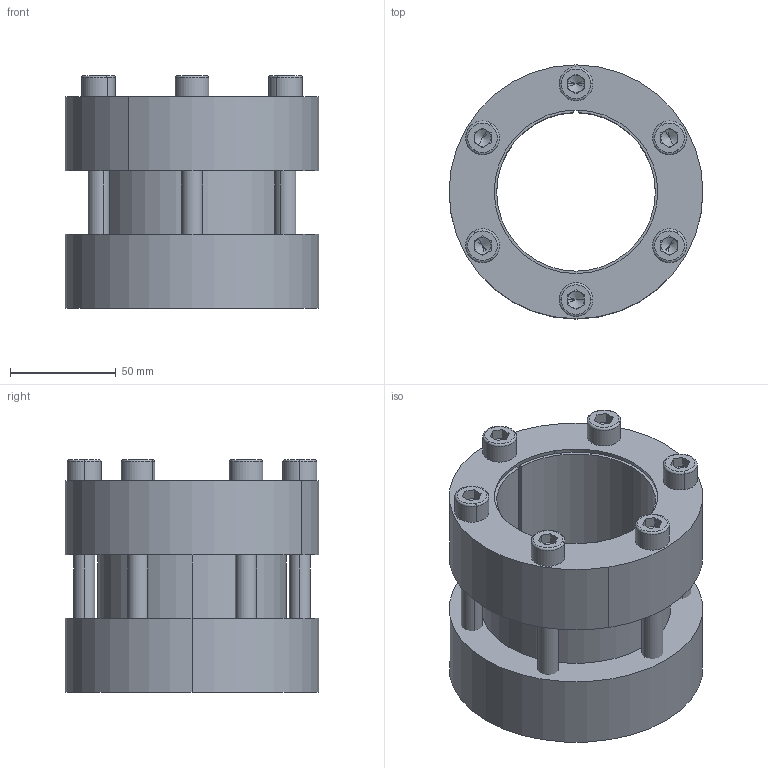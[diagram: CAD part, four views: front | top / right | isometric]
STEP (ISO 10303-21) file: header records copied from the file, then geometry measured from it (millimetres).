
FILE_DESCRIPTION (( 'STEP AP214' ), '1' );
FILE_NAME ('CONEX-M-75x120.step', '2013-04-06T13:25:55', ( 'Pc' ), ( '' ), 'SwSTEP 2.0', 'SolidWorks 2013', '' );
FILE_SCHEMA (( 'AUTOMOTIVE_DESIGN' ));
Length unit declared in the file: millimetre
Products named in the file (1): CONEX-M-75x120
Bounding box: 120 x 120 x 109.99 mm (x, y, z)
Volume: 549325.1 mm3; surface area: 150495.8 mm2
Topology: 9 solids, 9 shells, 214 faces, 482 edges, 286 vertices
Faces by surface type: plane 98, cylinder 58, cone 34, torus 24
Entity records: 8399 total; most frequent: DIRECTION 1122, CARTESIAN_POINT 998, ORIENTED_EDGE 940, EDGE_CURVE 470, AXIS2_PLACEMENT_3D 441, VERTEX_POINT 286, EDGE_LOOP 254, LINE 240
